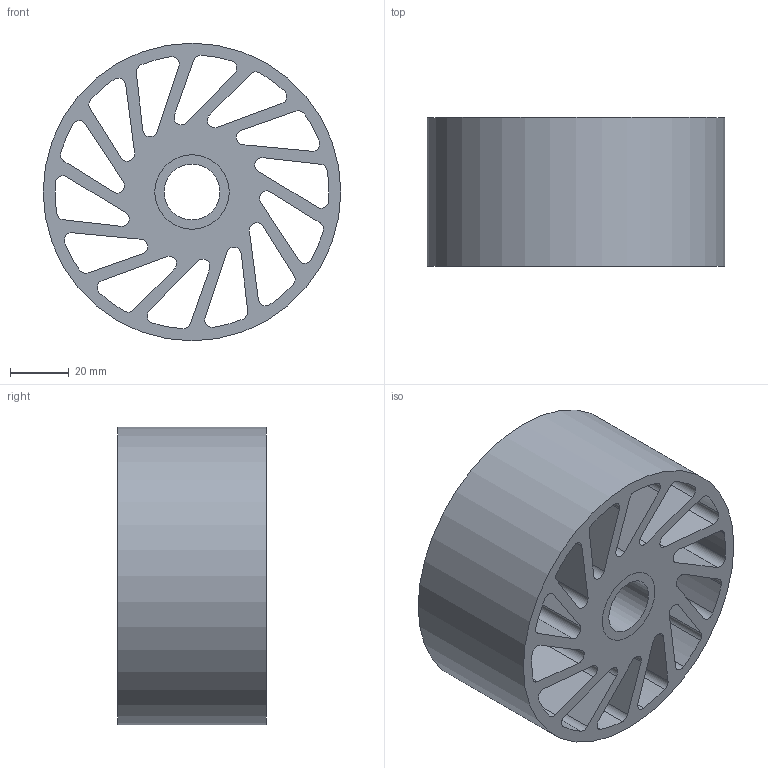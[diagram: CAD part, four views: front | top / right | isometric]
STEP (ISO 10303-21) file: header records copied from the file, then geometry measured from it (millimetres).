
FILE_DESCRIPTION(/* description */ (''),/* implementation_level */ '2;1');
FILE_NAME(/* name */ 'C:\Users\Owner\Desktop\Meridian Stuff\Oilite\NCWOB-420-XXX.stp',/* time_stamp */ '2023-05-22T17:00:12-05:00',/* author */ ('ASG'),/* organization */ ('Meridian Laboratory '),/* preprocessor_version */ 'ST-DEVELOPER v19',/* originating_system */ 'Autodesk Inventor 2023',/* authorisation */ '');
FILE_SCHEMA (('AUTOMOTIVE_DESIGN { 1 0 10303 214 3 1 1 }'));
Length unit declared in the file: inch
Products named in the file (1): NCWOB-340-XXX
Bounding box: 101.6 x 50.8 x 101.6 mm (x, y, z)
Volume: 216377.5 mm3; surface area: 85091.1 mm2
Topology: 2 solids, 2 shells, 92 faces, 264 edges, 176 vertices
Faces by surface type: cylinder 60, plane 32
Full cylindrical faces by diameter (mm): 19.101 x1, 25.4 x2, 101.6 x1
Entity records: 3285 total; most frequent: DIRECTION 570, CARTESIAN_POINT 533, ORIENTED_EDGE 528, EDGE_CURVE 264, AXIS2_PLACEMENT_3D 213, VERTEX_POINT 176, LINE 144, VECTOR 144
